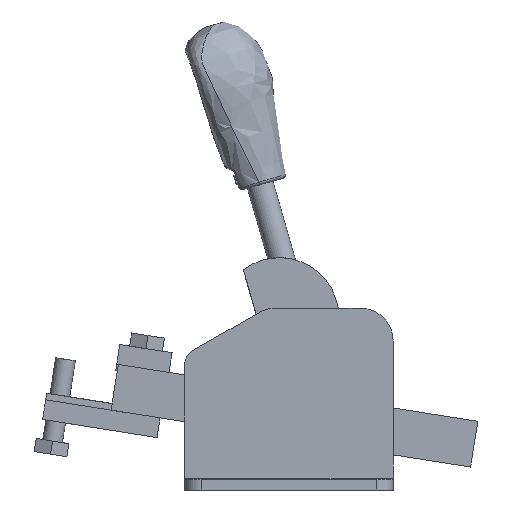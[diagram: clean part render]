
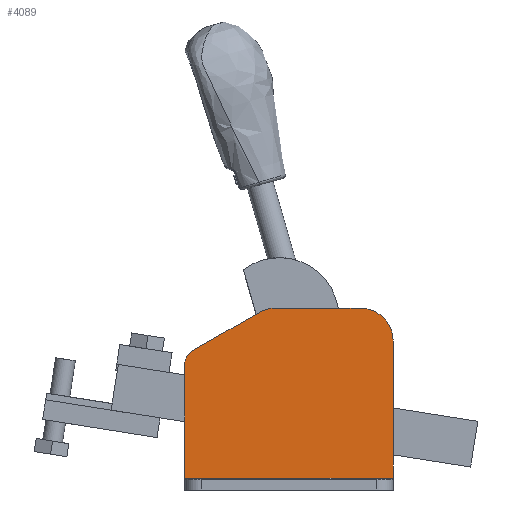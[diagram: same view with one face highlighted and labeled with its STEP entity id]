
A CAD part, front view. The second image highlights one B-rep face of the part: STEP entity #4089.
In plain terms, the highlighted planar face has unit normal (0, -1, 0).
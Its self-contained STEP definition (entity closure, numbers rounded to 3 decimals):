
#312=FACE_OUTER_BOUND('',#552,.T.);
#552=EDGE_LOOP('',(#2813,#2814,#2815,#2816,#2817,#2818,#2819,#2820));
#828=LINE('',#6195,#1204);
#829=LINE('',#6201,#1205);
#830=LINE('',#6204,#1206);
#831=LINE('',#6206,#1207);
#832=LINE('',#6209,#1208);
#1204=VECTOR('',#5007,63.);
#1205=VECTOR('',#5012,23.064);
#1206=VECTOR('',#5015,34.198);
#1207=VECTOR('',#5016,41.4);
#1208=VECTOR('',#5019,25.526);
#1563=CIRCLE('',#4531,10.);
#1564=CIRCLE('',#4532,5.);
#1565=CIRCLE('',#4533,10.);
#1745=VERTEX_POINT('',#6182);
#1747=VERTEX_POINT('',#6190);
#1748=VERTEX_POINT('',#6197);
#1749=VERTEX_POINT('',#6198);
#1750=VERTEX_POINT('',#6200);
#1751=VERTEX_POINT('',#6202);
#1752=VERTEX_POINT('',#6205);
#1753=VERTEX_POINT('',#6207);
#2163=EDGE_CURVE('',#1745,#1747,#828,.T.);
#2164=EDGE_CURVE('',#1748,#1749,#1563,.T.);
#2165=EDGE_CURVE('',#1749,#1750,#829,.T.);
#2166=EDGE_CURVE('',#1750,#1751,#1564,.T.);
#2167=EDGE_CURVE('',#1747,#1751,#830,.T.);
#2168=EDGE_CURVE('',#1752,#1745,#831,.T.);
#2169=EDGE_CURVE('',#1752,#1753,#1565,.T.);
#2170=EDGE_CURVE('',#1753,#1748,#832,.T.);
#2813=ORIENTED_EDGE('',*,*,#2164,.T.);
#2814=ORIENTED_EDGE('',*,*,#2165,.T.);
#2815=ORIENTED_EDGE('',*,*,#2166,.T.);
#2816=ORIENTED_EDGE('',*,*,#2167,.F.);
#2817=ORIENTED_EDGE('',*,*,#2163,.F.);
#2818=ORIENTED_EDGE('',*,*,#2168,.F.);
#2819=ORIENTED_EDGE('',*,*,#2169,.T.);
#2820=ORIENTED_EDGE('',*,*,#2170,.T.);
#3945=PLANE('',#4530);
#4089=ADVANCED_FACE('',(#312),#3945,.F.);
#4530=AXIS2_PLACEMENT_3D('',#6196,#5008,#5009);
#4531=AXIS2_PLACEMENT_3D('',#6199,#5010,#5011);
#4532=AXIS2_PLACEMENT_3D('',#6203,#5013,#5014);
#4533=AXIS2_PLACEMENT_3D('',#6208,#5017,#5018);
#5007=DIRECTION('',(-1.,0.,0.));
#5008=DIRECTION('center_axis',(0.,1.,0.));
#5009=DIRECTION('ref_axis',(-1.,0.,0.));
#5010=DIRECTION('center_axis',(0.,-1.,0.));
#5011=DIRECTION('ref_axis',(0.,0.,1.));
#5012=DIRECTION('',(-0.866,0.,-0.5));
#5013=DIRECTION('center_axis',(0.,-1.,0.));
#5014=DIRECTION('ref_axis',(-0.5,0.,0.866));
#5015=DIRECTION('',(0.,0.,1.));
#5016=DIRECTION('',(0.,0.,-1.));
#5017=DIRECTION('center_axis',(0.,-1.,0.));
#5018=DIRECTION('ref_axis',(1.,0.,0.));
#5019=DIRECTION('',(-1.,0.,0.));
#6182=CARTESIAN_POINT('',(70.,-3.2,0.4));
#6190=CARTESIAN_POINT('',(7.,-3.2,0.4));
#6195=CARTESIAN_POINT('',(70.,-3.2,0.4));
#6196=CARTESIAN_POINT('Origin',(0.,-3.2,-3.2));
#6197=CARTESIAN_POINT('',(34.474,-3.2,51.8));
#6198=CARTESIAN_POINT('',(29.474,-3.2,50.46));
#6199=CARTESIAN_POINT('Origin',(34.474,-3.2,41.8));
#6200=CARTESIAN_POINT('',(9.5,-3.2,38.928));
#6201=CARTESIAN_POINT('',(29.474,-3.2,50.46));
#6202=CARTESIAN_POINT('',(7.,-3.2,34.598));
#6203=CARTESIAN_POINT('Origin',(12.,-3.2,34.598));
#6204=CARTESIAN_POINT('',(7.,-3.2,0.4));
#6205=CARTESIAN_POINT('',(70.,-3.2,41.8));
#6206=CARTESIAN_POINT('',(70.,-3.2,41.8));
#6207=CARTESIAN_POINT('',(60.,-3.2,51.8));
#6208=CARTESIAN_POINT('Origin',(60.,-3.2,41.8));
#6209=CARTESIAN_POINT('',(60.,-3.2,51.8));
